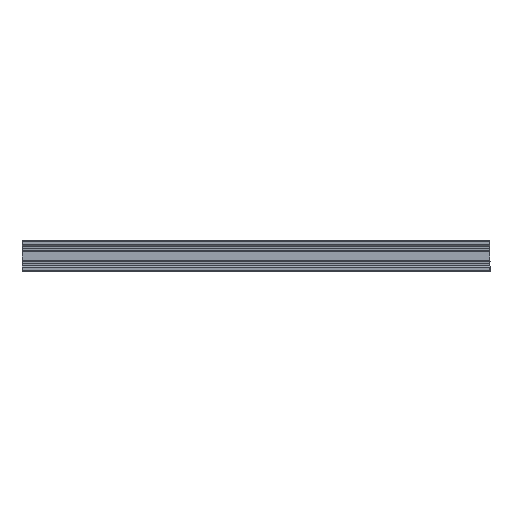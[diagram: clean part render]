
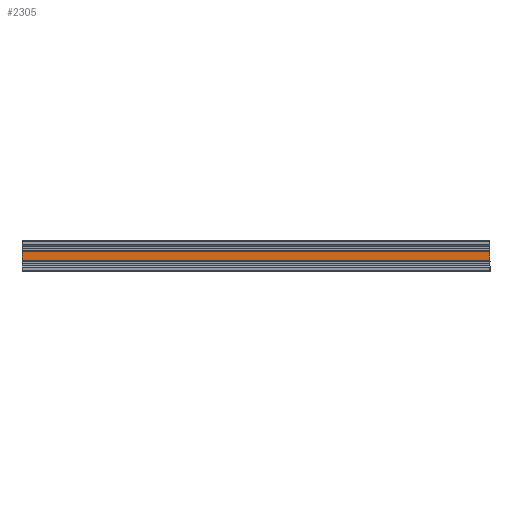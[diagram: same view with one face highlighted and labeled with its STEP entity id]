
A CAD part, top view. The second image highlights one B-rep face of the part: STEP entity #2305.
In plain terms, the highlighted planar face has unit normal (0, 0, 1).
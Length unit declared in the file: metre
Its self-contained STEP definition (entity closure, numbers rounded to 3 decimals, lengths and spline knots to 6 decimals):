
#242=ORIENTED_EDGE('',*,*,#859,.F.);
#243=ORIENTED_EDGE('',*,*,#860,.F.);
#244=ORIENTED_EDGE('',*,*,#861,.T.);
#245=ORIENTED_EDGE('',*,*,#857,.T.);
#857=EDGE_CURVE('',#1141,#1140,#1411,.T.);
#859=EDGE_CURVE('',#1142,#1140,#1413,.T.);
#860=EDGE_CURVE('',#1143,#1142,#1414,.T.);
#861=EDGE_CURVE('',#1143,#1141,#1415,.T.);
#1140=VERTEX_POINT('',#3402);
#1141=VERTEX_POINT('',#3404);
#1142=VERTEX_POINT('',#3408);
#1143=VERTEX_POINT('',#3410);
#1411=LINE('',#3403,#1733);
#1413=LINE('',#3407,#1735);
#1414=LINE('',#3409,#1736);
#1415=LINE('',#3411,#1737);
#1733=VECTOR('',#2776,1.);
#1735=VECTOR('',#2780,1.);
#1736=VECTOR('',#2781,1.);
#1737=VECTOR('',#2782,1.);
#1953=EDGE_LOOP('',(#242,#243,#244,#245));
#2075=FACE_BOUND('',#1953,.T.);
#2195=PLANE('',#2436);
#2305=ADVANCED_FACE('',(#2075),#2195,.T.);
#2436=AXIS2_PLACEMENT_3D('',#3406,#2778,#2779);
#2776=DIRECTION('',(-1.,0.,0.));
#2778=DIRECTION('',(0.,0.,1.));
#2779=DIRECTION('',(0.,1.,0.));
#2780=DIRECTION('',(0.,1.,0.));
#2781=DIRECTION('',(-1.,0.,0.));
#2782=DIRECTION('',(0.,1.,0.));
#3402=CARTESIAN_POINT('',(-0.303942,0.00988,-0.213387));
#3403=CARTESIAN_POINT('',(0.306058,0.00988,-0.213387));
#3404=CARTESIAN_POINT('',(0.306058,0.00988,-0.213387));
#3406=CARTESIAN_POINT('',(0.306058,0.00446,-0.213387));
#3407=CARTESIAN_POINT('',(-0.303942,0.00446,-0.213387));
#3408=CARTESIAN_POINT('',(-0.303942,-0.00096,-0.213387));
#3409=CARTESIAN_POINT('',(0.306058,-0.00096,-0.213387));
#3410=CARTESIAN_POINT('',(0.306058,-0.00096,-0.213387));
#3411=CARTESIAN_POINT('',(0.306058,0.00446,-0.213387));
